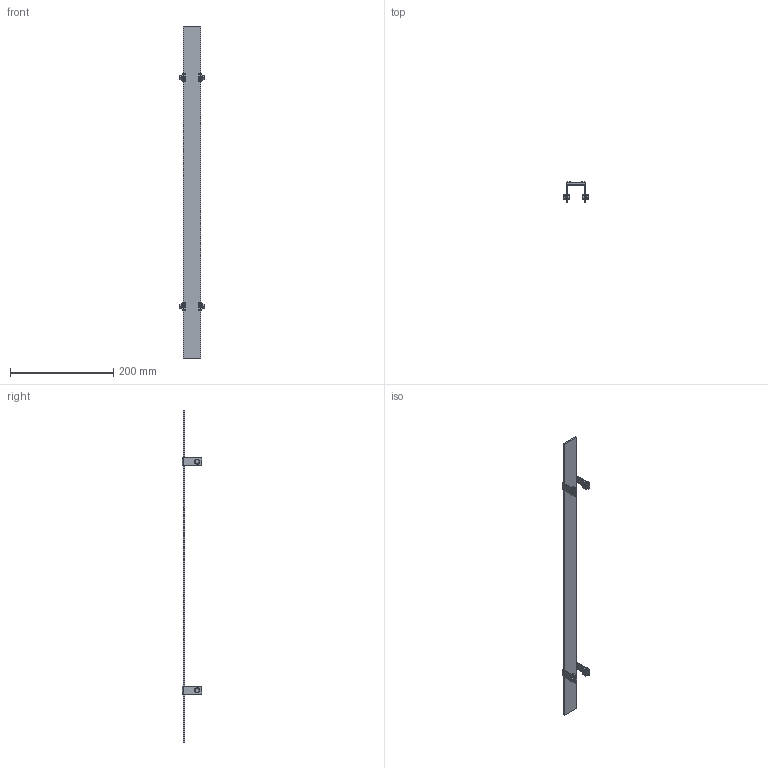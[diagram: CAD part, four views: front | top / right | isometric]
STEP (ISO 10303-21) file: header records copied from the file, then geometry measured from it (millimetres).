
FILE_DESCRIPTION((''),'2;1');
FILE_NAME('2011204_ASM','2012-09-05T',('rink'),(''),'PRO/ENGINEER BY PARAMETRIC TECHNOLOGY CORPORATION, 2011040','PRO/ENGINEER BY PARAMETRIC TECHNOLOGY CORPORATION, 2011040','');
FILE_SCHEMA(('AUTOMOTIVE_DESIGN_CC2 { 1 2 10303 214 -1 1 5 2 }'));
Length unit declared in the file: millimetre
Products named in the file (7): 2011203; 2011161; 2003292; 2011162; 2011167; 2011163_ASM; 2011204_ASM
Assembly tree (9 placements, depth 3):
  2011204_ASM
    2011203
    2011163_ASM  x4
      2011161
      2003292
      2011162
      2011167
Bounding box: 46.8 x 38 x 642 mm (x, y, z)
Volume: 71453.9 mm3; surface area: 56289.4 mm2
Topology: 17 solids, 21 shells, 373 faces, 945 edges, 650 vertices
Faces by surface type: plane 241, cylinder 84, cone 40, torus 8
Entity records: 5385 total; most frequent: CARTESIAN_POINT 751, DIRECTION 705, ORIENTED_EDGE 604, PRESENTATION_STYLE_ASSIGNMENT 366, STYLED_ITEM 335, CURVE_STYLE 329, EDGE_CURVE 304, VECTOR 237
